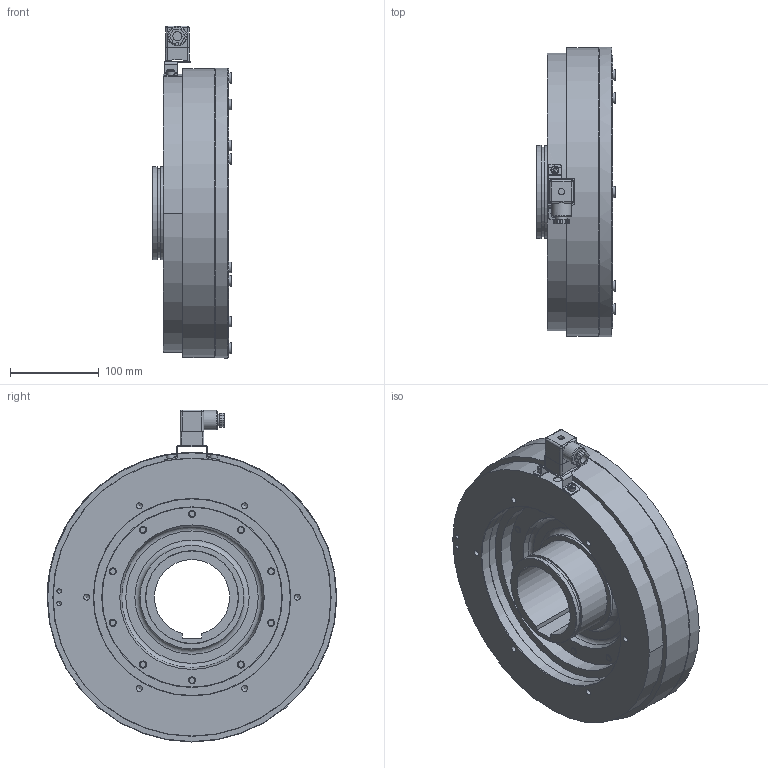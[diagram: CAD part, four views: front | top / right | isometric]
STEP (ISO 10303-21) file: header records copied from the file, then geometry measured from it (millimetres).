
FILE_DESCRIPTION(/* description */ (''),/* implementation_level */ '2;1');
FILE_NAME(/* name */ 'X:\INVENTOR\DISEGNI\08_Freni_Friz_Elettmag_Monodisco\08_26 EMSL_DF\EMSL_DF STEP\08_26_310_21 EMSL310_DF-BM_S@STEP.stp',/* time_stamp */ '2018-04-24T08:29:33+02:00',/* author */ ('stefano'),/* organization */ (''),/* preprocessor_version */ 'ST-DEVELOPER v17',/* originating_system */ 'Autodesk Inventor 2018',/* authorisation */ '');
FILE_SCHEMA (('AUTOMOTIVE_DESIGN { 1 0 10303 214 3 1 1 }'));
Length unit declared in the file: millimetre
Products named in the file (1): 08_26_310_21 EMSL310_DF-BM - Spina_Substitute_1
Bounding box: 89 x 327 x 374.81 mm (x, y, z)
Volume: 3753189.1 mm3; surface area: 654376.6 mm2
Topology: 4 solids, 4 shells, 659 faces, 1864 edges, 1286 vertices
Faces by surface type: cylinder 344, plane 224, cone 70, torus 17, sphere 4
Full cylindrical faces by diameter (mm): 2 x1, 3 x12, 4.917 x2, 5 x2, 5.25 x2, 6.647 x6, 7 x1, 8 x10, 8.1 x12, 8.5 x2, 9 x2, 10.1 x6, 10.5 x1, 12 x12, 13 x11, 15 x12, 22 x1, 101 x1, 105 x2, 117 x1, 170 x1, 203 x1, 204 x2, 214 x1, 222 x1, 222.4 x1, 223 x1, 238 x1, 300 x1, 314.2 x1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
Entity records: 22650 total; most frequent: CARTESIAN_POINT 4181, DIRECTION 4072, ORIENTED_EDGE 3686, EDGE_CURVE 1843, AXIS2_PLACEMENT_3D 1669, VERTEX_POINT 1290, CIRCLE 1009, EDGE_LOOP 873
